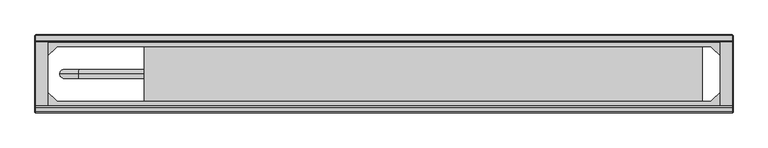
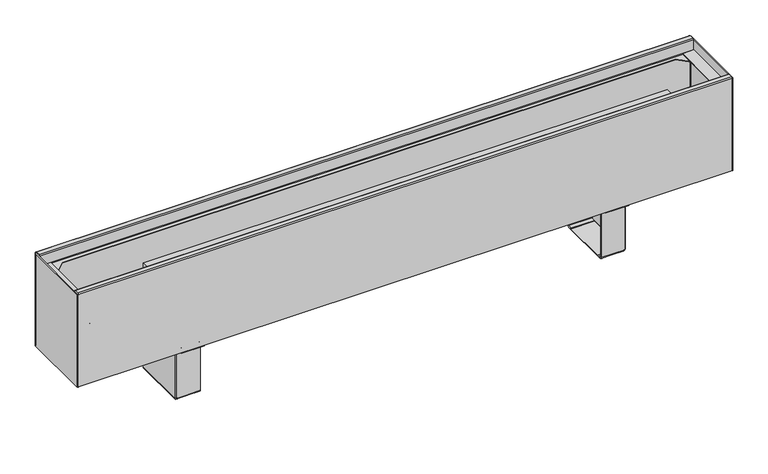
"""IFC4 building model written with IfcOpenShell, lengths in millimetres: proxy geometry, TECHNO_Конвектор напольный_Vita KPZ 135 : KPZ 135-180."""

from ifc_helpers import new_model, si_unit, point, frame, origin, place, context, project, spatial, polyline, circle_curve, ellipse_curve, trimmed, outline, extrude, source, transform, mapped, element, save
from ifc_brep_helpers import plane_surface, cylinder_surface, revolved_surface, advanced_brep


def mechanical_equipment_164569aa(model_context):
    return source(origin(), model_context, "Body", "SolidModel", [
        advanced_brep(
        [(409.7, -116.8, 1.5), (409.7, -114.5, 3.8), (409.7, -114.5, 4.9), (409.7, -116.0, 4.9), (409.7, -116.0, 3.8), (409.7, -116.8, 3.0), (409.7, -124.5, 3.0), (409.7, -124.5, 1.5), (409.7, -117.6, 1.5), (409.7, -114.5, 97.7), (409.7, -113.7, 98.5), (409.7, -101.0, 98.5), (409.7, -101.0, 100.0), (409.7, -113.7, 100.0), (409.7, -116.0, 97.7), (409.7, -116.0, 95.5), (409.7, -114.5, 95.5), (409.7, -220.5, 3.8), (409.7, -218.2, 1.5), (409.7, -217.4, 1.5), (409.7, -210.5, 1.5), (409.7, -210.5, 3.0), (409.7, -218.2, 3.0), (409.7, -219.0, 3.8), (409.7, -219.0, 4.9), (409.7, -220.5, 4.9), (409.7, -219.0, 97.7), (409.7, -221.3, 100.0), (409.7, -234.0, 100.0), (409.7, -234.0, 98.5), (409.7, -221.3, 98.5), (409.7, -220.5, 97.7), (409.7, -220.5, 95.5), (409.7, -219.0, 95.5), (367.0, -220.5, 97.7), (367.0, -221.3, 98.5), (367.0, -234.0, 98.5), (367.0, -234.0, 100.0), (367.0, -221.3, 100.0), (367.0, -219.0, 97.7), (367.0, -219.0, 3.8), (367.0, -218.2, 3.0), (367.0, -210.5, 3.0), (367.0, -210.5, 1.5), (367.0, -124.5, 1.5), (367.0, -124.5, 3.0), (367.0, -116.8, 3.0), (367.0, -116.0, 3.8), (367.0, -116.0, 97.7), (367.0, -113.7, 100.0), (367.0, -101.0, 100.0), (367.0, -101.0, 98.5), (367.0, -113.7, 98.5), (367.0, -114.5, 97.7), (367.0, -114.5, 3.8), (367.0, -116.8, 1.5), (367.0, -117.6, 1.5), (367.0, -117.6, 0.0), (367.0, -217.4, 0.0), (367.0, -217.4, 1.5), (367.0, -218.2, 1.5), (367.0, -220.5, 3.8), (410.5, -116.8, 95.5), (410.5, -218.2, 95.5), (412.0, -218.2, 95.5), (412.0, -116.8, 95.5), (412.0, -116.8, 4.9), (412.0, -117.6, 4.9), (410.5, -117.6, 4.9), (410.5, -116.8, 4.9), (410.5, -218.2, 4.9), (410.5, -217.4, 4.9), (412.0, -217.4, 4.9), (412.0, -218.2, 4.9), (410.5, -117.6, 2.3), (410.5, -217.4, 2.3), (412.0, -217.4, 2.3), (412.0, -117.6, 2.3), (409.7, -117.6, 0.0), (409.7, -217.4, 0.0)],
        [
            (0, 1, circle_curve(frame((409.7, -116.8, 3.8), z_axis=(1.0, 0.0, 0.0), x_axis=(0.0, -1.0, 0.0)), 2.3)),
            (1, 2),
            (2, 3),
            (3, 4),
            (4, 5, circle_curve(frame((409.7, -116.8, 3.8), z_axis=(-1.0, 0.0, 0.0), x_axis=(0.0, -1.0, 0.0)), 0.8)),
            (5, 6),
            (6, 7),
            (7, 8),
            (8, 0),
            (9, 10, circle_curve(frame((409.7, -113.7, 97.7), z_axis=(-1.0, 0.0, 0.0), x_axis=(0.0, -1.0, 0.0)), 0.8)),
            (10, 11),
            (11, 12),
            (12, 13),
            (13, 14, circle_curve(frame((409.7, -113.7, 97.7), z_axis=(1.0, 0.0, 0.0), x_axis=(0.0, -1.0, 0.0)), 2.3)),
            (14, 15),
            (15, 16),
            (16, 9),
            (17, 18, circle_curve(frame((409.7, -218.2, 3.8), z_axis=(1.0, 0.0, 0.0), x_axis=(0.0, -1.0, 0.0)), 2.3)),
            (18, 19),
            (19, 20),
            (20, 21),
            (21, 22),
            (22, 23, circle_curve(frame((409.7, -218.2, 3.8), z_axis=(-1.0, 0.0, 0.0), x_axis=(0.0, -1.0, 0.0)), 0.8)),
            (23, 24),
            (24, 25),
            (25, 17),
            (26, 27, circle_curve(frame((409.7, -221.3, 97.7), z_axis=(1.0, 0.0, 0.0), x_axis=(0.0, -1.0, 0.0)), 2.3)),
            (27, 28),
            (28, 29),
            (29, 30),
            (30, 31, circle_curve(frame((409.7, -221.3, 97.7), z_axis=(-1.0, 0.0, 0.0), x_axis=(0.0, -1.0, 0.0)), 0.8)),
            (31, 32),
            (32, 33),
            (33, 26),
            (34, 35, circle_curve(frame((367.0, -221.3, 97.7), z_axis=(1.0, 0.0, 0.0), x_axis=(0.0, -1.0, 0.0)), 0.8)),
            (35, 36),
            (36, 37),
            (37, 38),
            (38, 39, circle_curve(frame((367.0, -221.3, 97.7), z_axis=(-1.0, 0.0, 0.0), x_axis=(0.0, -1.0, 0.0)), 2.3)),
            (39, 40),
            (40, 41, circle_curve(frame((367.0, -218.2, 3.8), z_axis=(1.0, 0.0, 0.0), x_axis=(0.0, -1.0, 0.0)), 0.8)),
            (41, 42),
            (42, 43),
            (43, 44),
            (44, 45),
            (45, 46),
            (46, 47, circle_curve(frame((367.0, -116.8, 3.8), z_axis=(1.0, 0.0, 0.0), x_axis=(0.0, -1.0, 0.0)), 0.8)),
            (47, 48),
            (48, 49, circle_curve(frame((367.0, -113.7, 97.7), z_axis=(-1.0, 0.0, 0.0), x_axis=(0.0, -1.0, 0.0)), 2.3)),
            (49, 50),
            (50, 51),
            (51, 52),
            (52, 53, circle_curve(frame((367.0, -113.7, 97.7), z_axis=(1.0, 0.0, 0.0), x_axis=(0.0, -1.0, 0.0)), 0.8)),
            (53, 54),
            (54, 55, circle_curve(frame((367.0, -116.8, 3.8), z_axis=(-1.0, 0.0, 0.0), x_axis=(0.0, -1.0, 0.0)), 2.3)),
            (55, 56),
            (56, 57),
            (57, 58),
            (58, 59),
            (59, 60),
            (60, 61, circle_curve(frame((367.0, -218.2, 3.8), z_axis=(-1.0, 0.0, 0.0), x_axis=(0.0, -1.0, 0.0)), 2.3)),
            (61, 34),
            (30, 35),
            (34, 31),
            (29, 36),
            (28, 37),
            (27, 38),
            (26, 39),
            (33, 24),
            (23, 40),
            (22, 41),
            (5, 46),
            (45, 6),
            (4, 47),
            (3, 15),
            (14, 48),
            (13, 49),
            (12, 50),
            (11, 51),
            (10, 52),
            (9, 53),
            (16, 2),
            (1, 54),
            (0, 55),
            (8, 56),
            (17, 61),
            (60, 18),
            (25, 32),
            (21, 42),
            (20, 43),
            (59, 19),
            (44, 7),
            (15, 62, circle_curve(frame((409.7, -116.8, 95.5), z_axis=(0.0, 0.0, -1.0), x_axis=(-1.0, 0.0, 0.0)), 0.8)),
            (62, 63),
            (63, 33, circle_curve(frame((409.7, -218.2, 95.5), z_axis=(0.0, 0.0, -1.0), x_axis=(-1.0, 0.0, 0.0)), 0.8)),
            (32, 64, circle_curve(frame((409.7, -218.2, 95.5), z_axis=(0.0, 0.0, 1.0), x_axis=(-1.0, 0.0, 0.0)), 2.3)),
            (64, 65),
            (65, 16, circle_curve(frame((409.7, -116.8, 95.5), z_axis=(0.0, 0.0, 1.0), x_axis=(-1.0, 0.0, 0.0)), 2.3)),
            (2, 66, circle_curve(frame((409.7, -116.8, 4.9), z_axis=(0.0, 0.0, -1.0), x_axis=(-1.0, 0.0, 0.0)), 2.3)),
            (66, 67),
            (67, 68),
            (68, 69),
            (69, 3, circle_curve(frame((409.7, -116.8, 4.9), z_axis=(0.0, 0.0, 1.0), x_axis=(-1.0, 0.0, 0.0)), 0.8)),
            (24, 70, circle_curve(frame((409.7, -218.2, 4.9), z_axis=(0.0, 0.0, 1.0), x_axis=(-1.0, 0.0, 0.0)), 0.8)),
            (70, 71),
            (71, 72),
            (72, 73),
            (73, 25, circle_curve(frame((409.7, -218.2, 4.9), z_axis=(0.0, 0.0, -1.0), x_axis=(-1.0, 0.0, 0.0)), 2.3)),
            (69, 62),
            (68, 74),
            (74, 75),
            (75, 71),
            (70, 63),
            (64, 73),
            (72, 76),
            (76, 77),
            (77, 67),
            (66, 65),
            (8, 74, circle_curve(frame((409.7, -117.6, 2.3), z_axis=(0.0, -1.0, 0.0), x_axis=(-1.0, 0.0, 0.0)), 0.8)),
            (77, 78, circle_curve(frame((409.7, -117.6, 2.3), z_axis=(0.0, 1.0, 0.0), x_axis=(-1.0, 0.0, 0.0)), 2.3)),
            (78, 57),
            (58, 79),
            (79, 76, circle_curve(frame((409.7, -217.4, 2.3), z_axis=(0.0, -1.0, 0.0), x_axis=(-1.0, 0.0, 0.0)), 2.3)),
            (75, 19, circle_curve(frame((409.7, -217.4, 2.3), z_axis=(0.0, 1.0, 0.0), x_axis=(-1.0, 0.0, 0.0)), 0.8)),
            (20, 7),
            (79, 78),
        ],
        [
            plane_surface(frame((409.7, -222.1, 97.7), z_axis=(1.0, 0.0, 0.0), x_axis=(0.0, 0.0, 1.0))),
            plane_surface(frame((367.0, -222.1, 97.7), z_axis=(-1.0, 0.0, 0.0), x_axis=(0.0, 0.0, -1.0))),
            revolved_surface(polyline([(409.7, -222.10000000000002, 97.7), (367.0, -222.10000000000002, 97.7)]), (409.7, -221.3, 97.7), (1.0, 0.0, 0.0)),
            plane_surface(frame((367.0, -221.3, 98.5), z_axis=(0.0, 0.0, -1.0), x_axis=(1.0, 0.0, 0.0))),
            plane_surface(frame((367.0, -234.0, 98.5), z_axis=(0.0, -1.0, 0.0), x_axis=(1.0, 0.0, 0.0))),
            plane_surface(frame((367.0, -234.0, 100.0), z_axis=(0.0, 0.0, 1.0), x_axis=(1.0, 0.0, 0.0))),
            cylinder_surface(frame((409.7, -221.3, 97.7), z_axis=(-1.0, 0.0, 0.0), x_axis=(0.0, -1.0, 0.0)), 2.3),
            plane_surface(frame((367.0, -219.0, 97.7), z_axis=(0.0, 1.0, 0.0), x_axis=(1.0, 0.0, 0.0))),
            revolved_surface(polyline([(409.7, -219.0, 3.8), (367.0, -219.0, 3.8)]), (409.7, -218.2, 3.8), (1.0, 0.0, 0.0)),
            plane_surface(frame((367.0, -124.5, 3.0), z_axis=(0.0, 0.0, 1.0), x_axis=(1.0, 0.0, 0.0))),
            revolved_surface(polyline([(409.7, -117.6, 3.8), (367.0, -117.6, 3.8)]), (412.0, -116.8, 3.8), (1.0, 0.0, 0.0)),
            plane_surface(frame((367.0, -116.0, 3.8), z_axis=(0.0, -1.0, 0.0), x_axis=(1.0, 0.0, 0.0))),
            cylinder_surface(frame((412.0, -113.7, 97.7), z_axis=(-1.0, 0.0, 0.0), x_axis=(0.0, -1.0, 0.0)), 2.3),
            plane_surface(frame((367.0, -113.7, 100.0), z_axis=(0.0, 0.0, 1.0), x_axis=(1.0, 0.0, 0.0))),
            plane_surface(frame((367.0, -101.0, 100.0), z_axis=(0.0, 1.0, 0.0), x_axis=(1.0, 0.0, 0.0))),
            plane_surface(frame((367.0, -101.0, 98.5), z_axis=(0.0, 0.0, -1.0), x_axis=(1.0, 0.0, 0.0))),
            revolved_surface(polyline([(409.7, -114.5, 97.7), (367.0, -114.5, 97.7)]), (412.0, -113.7, 97.7), (1.0, 0.0, 0.0)),
            plane_surface(frame((367.0, -114.5, 97.7), z_axis=(0.0, 1.0, 0.0), x_axis=(1.0, 0.0, 0.0))),
            cylinder_surface(frame((412.0, -116.8, 3.8), z_axis=(-1.0, 0.0, 0.0), x_axis=(0.0, -1.0, 0.0)), 2.3),
            plane_surface(frame((367.0, -116.8, 1.5), z_axis=(0.0, 0.0, -1.0), x_axis=(1.0, 0.0, 0.0))),
            cylinder_surface(frame((409.7, -218.2, 3.8), z_axis=(-1.0, 0.0, 0.0), x_axis=(0.0, -1.0, 0.0)), 2.3),
            plane_surface(frame((367.0, -220.5, 3.8), z_axis=(0.0, -1.0, 0.0), x_axis=(1.0, 0.0, 0.0))),
            plane_surface(frame((367.0, -218.2, 3.0), z_axis=(0.0, 0.0, 1.0), x_axis=(1.0, 0.0, 0.0))),
            plane_surface(frame((367.0, -210.5, 3.0), z_axis=(0.0, 1.0, 0.0), x_axis=(1.0, 0.0, 0.0))),
            plane_surface(frame((367.0, -210.5, 1.5), z_axis=(0.0, 0.0, -1.0), x_axis=(1.0, 0.0, 0.0))),
            plane_surface(frame((367.0, -124.5, 1.5), z_axis=(0.0, -1.0, 0.0), x_axis=(1.0, 0.0, 0.0))),
            plane_surface(frame((409.7, -116.0, 95.5), z_axis=(0.0, 0.0, 1.0), x_axis=(0.0, -1.0, 0.0))),
            plane_surface(frame((409.7, -116.0, 4.9), z_axis=(0.0, 0.0, -1.0), x_axis=(0.0, 1.0, 0.0))),
            revolved_surface(polyline([(408.9, -116.8, 4.9), (408.9, -116.8, 95.5)]), (409.7, -116.8, 4.9), (0.0, 0.0, -1.0)),
            plane_surface(frame((410.5, -116.8, 95.5), z_axis=(-1.0, 0.0, 0.0), x_axis=(0.0, 0.0, -1.0))),
            plane_surface(frame((412.0, -117.6, 95.5), z_axis=(1.0, 0.0, 0.0), x_axis=(0.0, 0.0, -1.0))),
            cylinder_surface(frame((409.7, -116.8, 4.9), z_axis=(0.0, 0.0, 1.0), x_axis=(-1.0, 0.0, 0.0)), 2.3),
            cylinder_surface(frame((409.7, -218.2, 0.0), z_axis=(0.0, 0.0, 1.0), x_axis=(-1.0, 0.0, 0.0)), 2.3),
            revolved_surface(polyline([(408.9, -218.2, 4.9), (408.9, -218.2, 95.5)]), (409.7, -218.2, 0.0), (0.0, 0.0, -1.0)),
            plane_surface(frame((367.0, -117.6, 1.5), z_axis=(0.0, 1.0, 0.0), x_axis=(0.0, 0.0, 1.0))),
            plane_surface(frame((367.0, -217.4, 1.5), z_axis=(0.0, -1.0, 0.0), x_axis=(0.0, 0.0, -1.0))),
            plane_surface(frame((367.0, -117.6, 1.5), z_axis=(0.0, 0.0, 1.0), x_axis=(0.0, -1.0, 0.0))),
            revolved_surface(polyline([(408.9, -217.4, 2.3), (408.9, -117.6, 2.3)]), (409.7, -217.4, 2.3), (0.0, -1.0, 0.0)),
            cylinder_surface(frame((409.7, -217.4, 2.3), z_axis=(0.0, 1.0, 0.0), x_axis=(-1.0, 0.0, 0.0)), 2.3),
            plane_surface(frame((409.7, -117.6, 0.0), z_axis=(0.0, 0.0, -1.0), x_axis=(0.0, -1.0, 0.0))),
        ],
        [
            (0, [[1, 2, 3, 4, 5, 6, 7, 8, 9]]),
            (0, [[10, 11, 12, 13, 14, 15, 16, 17]]),
            (0, [[18, 19, 20, 21, 22, 23, 24, 25, 26]]),
            (0, [[27, 28, 29, 30, 31, 32, 33, 34]]),
            (1, [[35, 36, 37, 38, 39, 40, 41, 42, 43, 44, 45, 46, 47, 48, 49, 50, 51, 52, 53, 54, 55, 56, 57, 58, 59, 60, 61, 62]]),
            (2, [[-31, 63, -35, 64]]),
            (3, [[-30, 65, -36, -63]]),
            (4, [[-29, 66, -37, -65]]),
            (5, [[-28, 67, -38, -66]]),
            (6, [[-27, 68, -39, -67]]),
            (7, [[-40, -68, -34, 69, -24, 70]]),
            (8, [[-23, 71, -41, -70]]),
            (9, [[-6, 72, -46, 73]]),
            (10, [[-5, 74, -47, -72]]),
            (11, [[-48, -74, -4, 75, -15, 76]]),
            (12, [[-14, 77, -49, -76]]),
            (13, [[-13, 78, -50, -77]]),
            (14, [[-12, 79, -51, -78]]),
            (15, [[-11, 80, -52, -79]]),
            (16, [[-10, 81, -53, -80]]),
            (17, [[-54, -81, -17, 82, -2, 83]]),
            (18, [[-1, 84, -55, -83]]),
            (19, [[-84, -9, 85, -56]]),
            (20, [[-18, 86, -61, 87]]),
            (21, [[-62, -86, -26, 88, -32, -64]]),
            (22, [[-22, 89, -42, -71]]),
            (23, [[-21, 90, -43, -89]]),
            (24, [[-87, -60, 91, -19]]),
            (25, [[-7, -73, -45, 92]]),
            (26, [[93, 94, 95, -33, 96, 97, 98, -16]]),
            (27, [[99, 100, 101, 102, 103, -3]]),
            (27, [[104, 105, 106, 107, 108, -25]]),
            (28, [[-93, -75, -103, 109]]),
            (29, [[-94, -109, -102, 110, 111, 112, -105, 113]]),
            (30, [[-97, 114, -107, 115, 116, 117, -100, 118]]),
            (31, [[-98, -118, -99, -82]]),
            (32, [[-96, -88, -108, -114]]),
            (33, [[-95, -113, -104, -69]]),
            (34, [[-57, -85, 119, -110, -101, -117, 120, 121]]),
            (35, [[122, 123, -115, -106, -112, 124, -91, -59]]),
            (36, [[125, -92, -44, -90]]),
            (37, [[-119, -8, -125, -20, -124, -111]]),
            (38, [[-120, -116, -123, 126]]),
            (39, [[-121, -126, -122, -58]]),
        ],
    ),
        advanced_brep(
        [(-409.7, -218.2, 1.5), (-409.7, -220.5, 3.8), (-409.7, -220.5, 4.9), (-409.7, -219.0, 4.9), (-409.7, -219.0, 3.8), (-409.7, -218.2, 3.0), (-409.7, -210.5, 3.0), (-409.7, -210.5, 1.5), (-409.7, -217.4, 1.5), (-409.7, -220.5, 97.7), (-409.7, -221.3, 98.5), (-409.7, -234.0, 98.5), (-409.7, -234.0, 100.0), (-409.7, -221.3, 100.0), (-409.7, -219.0, 97.7), (-409.7, -219.0, 95.5), (-409.7, -220.5, 95.5), (-409.7, -114.5, 3.8), (-409.7, -116.8, 1.5), (-409.7, -117.6, 1.5), (-409.7, -124.5, 1.5), (-409.7, -124.5, 3.0), (-409.7, -116.8, 3.0), (-409.7, -116.0, 3.8), (-409.7, -116.0, 4.9), (-409.7, -114.5, 4.9), (-409.7, -116.0, 97.7), (-409.7, -113.7, 100.0), (-409.7, -101.0, 100.0), (-409.7, -101.0, 98.5), (-409.7, -113.7, 98.5), (-409.7, -114.5, 97.7), (-409.7, -114.5, 95.5), (-409.7, -116.0, 95.5), (-367.0, -114.5, 97.7), (-367.0, -113.7, 98.5), (-367.0, -101.0, 98.5), (-367.0, -101.0, 100.0), (-367.0, -113.7, 100.0), (-367.0, -116.0, 97.7), (-367.0, -116.0, 3.8), (-367.0, -116.8, 3.0), (-367.0, -124.5, 3.0), (-367.0, -124.5, 1.5), (-367.0, -210.5, 1.5), (-367.0, -210.5, 3.0), (-367.0, -218.2, 3.0), (-367.0, -219.0, 3.8), (-367.0, -219.0, 97.7), (-367.0, -221.3, 100.0), (-367.0, -234.0, 100.0), (-367.0, -234.0, 98.5), (-367.0, -221.3, 98.5), (-367.0, -220.5, 97.7), (-367.0, -220.5, 3.8), (-367.0, -218.2, 1.5), (-367.0, -217.4, 1.5), (-367.0, -217.4, 0.0), (-367.0, -117.6, 0.0), (-367.0, -117.6, 1.5), (-367.0, -116.8, 1.5), (-367.0, -114.5, 3.8), (-410.5, -218.2, 95.5), (-410.5, -116.8, 95.5), (-412.0, -116.8, 95.5), (-412.0, -218.2, 95.5), (-412.0, -218.2, 4.9), (-412.0, -217.4, 4.9), (-410.5, -217.4, 4.9), (-410.5, -218.2, 4.9), (-410.5, -116.8, 4.9), (-410.5, -117.6, 4.9), (-412.0, -117.6, 4.9), (-412.0, -116.8, 4.9), (-410.5, -217.4, 2.3), (-410.5, -117.6, 2.3), (-412.0, -117.6, 2.3), (-412.0, -217.4, 2.3), (-409.7, -217.4, 0.0), (-409.7, -117.6, 0.0)],
        [
            (0, 1, circle_curve(frame((-409.7, -218.2, 3.8), z_axis=(-1.0, 0.0, 0.0), x_axis=(0.0, 1.0, 0.0)), 2.3)),
            (1, 2),
            (2, 3),
            (3, 4),
            (4, 5, circle_curve(frame((-409.7, -218.2, 3.8), z_axis=(1.0, 0.0, 0.0), x_axis=(0.0, 1.0, 0.0)), 0.8)),
            (5, 6),
            (6, 7),
            (7, 8),
            (8, 0),
            (9, 10, circle_curve(frame((-409.7, -221.3, 97.7), z_axis=(1.0, 0.0, 0.0), x_axis=(0.0, 1.0, 0.0)), 0.8)),
            (10, 11),
            (11, 12),
            (12, 13),
            (13, 14, circle_curve(frame((-409.7, -221.3, 97.7), z_axis=(-1.0, 0.0, 0.0), x_axis=(0.0, 1.0, 0.0)), 2.3)),
            (14, 15),
            (15, 16),
            (16, 9),
            (17, 18, circle_curve(frame((-409.7, -116.8, 3.8), z_axis=(-1.0, 0.0, 0.0), x_axis=(0.0, 1.0, 0.0)), 2.3)),
            (18, 19),
            (19, 20),
            (20, 21),
            (21, 22),
            (22, 23, circle_curve(frame((-409.7, -116.8, 3.8), z_axis=(1.0, 0.0, 0.0), x_axis=(0.0, 1.0, 0.0)), 0.8)),
            (23, 24),
            (24, 25),
            (25, 17),
            (26, 27, circle_curve(frame((-409.7, -113.7, 97.7), z_axis=(-1.0, 0.0, 0.0), x_axis=(0.0, 1.0, 0.0)), 2.3)),
            (27, 28),
            (28, 29),
            (29, 30),
            (30, 31, circle_curve(frame((-409.7, -113.7, 97.7), z_axis=(1.0, 0.0, 0.0), x_axis=(0.0, 1.0, 0.0)), 0.8)),
            (31, 32),
            (32, 33),
            (33, 26),
            (34, 35, circle_curve(frame((-367.0, -113.7, 97.7), z_axis=(-1.0, 0.0, 0.0), x_axis=(0.0, 1.0, 0.0)), 0.8)),
            (35, 36),
            (36, 37),
            (37, 38),
            (38, 39, circle_curve(frame((-367.0, -113.7, 97.7), z_axis=(1.0, 0.0, 0.0), x_axis=(0.0, 1.0, 0.0)), 2.3)),
            (39, 40),
            (40, 41, circle_curve(frame((-367.0, -116.8, 3.8), z_axis=(-1.0, 0.0, 0.0), x_axis=(0.0, 1.0, 0.0)), 0.8)),
            (41, 42),
            (42, 43),
            (43, 44),
            (44, 45),
            (45, 46),
            (46, 47, circle_curve(frame((-367.0, -218.2, 3.8), z_axis=(-1.0, 0.0, 0.0), x_axis=(0.0, 1.0, 0.0)), 0.8)),
            (47, 48),
            (48, 49, circle_curve(frame((-367.0, -221.3, 97.7), z_axis=(1.0, 0.0, 0.0), x_axis=(0.0, 1.0, 0.0)), 2.3)),
            (49, 50),
            (50, 51),
            (51, 52),
            (52, 53, circle_curve(frame((-367.0, -221.3, 97.7), z_axis=(-1.0, 0.0, 0.0), x_axis=(0.0, 1.0, 0.0)), 0.8)),
            (53, 54),
            (54, 55, circle_curve(frame((-367.0, -218.2, 3.8), z_axis=(1.0, 0.0, 0.0), x_axis=(0.0, 1.0, 0.0)), 2.3)),
            (55, 56),
            (56, 57),
            (57, 58),
            (58, 59),
            (59, 60),
            (60, 61, circle_curve(frame((-367.0, -116.8, 3.8), z_axis=(1.0, 0.0, 0.0), x_axis=(0.0, 1.0, 0.0)), 2.3)),
            (61, 34),
            (30, 35),
            (34, 31),
            (29, 36),
            (28, 37),
            (27, 38),
            (26, 39),
            (33, 24),
            (23, 40),
            (22, 41),
            (5, 46),
            (45, 6),
            (4, 47),
            (3, 15),
            (14, 48),
            (13, 49),
            (12, 50),
            (11, 51),
            (10, 52),
            (9, 53),
            (16, 2),
            (1, 54),
            (0, 55),
            (8, 56),
            (17, 61),
            (60, 18),
            (25, 32),
            (21, 42),
            (20, 43),
            (59, 19),
            (44, 7),
            (15, 62, circle_curve(frame((-409.7, -218.2, 95.5), z_axis=(0.0, 0.0, -1.0), x_axis=(1.0, 0.0, 0.0)), 0.8)),
            (62, 63),
            (63, 33, circle_curve(frame((-409.7, -116.8, 95.5), z_axis=(0.0, 0.0, -1.0), x_axis=(1.0, 0.0, 0.0)), 0.8)),
            (32, 64, circle_curve(frame((-409.7, -116.8, 95.5), z_axis=(0.0, 0.0, 1.0), x_axis=(1.0, 0.0, 0.0)), 2.3)),
            (64, 65),
            (65, 16, circle_curve(frame((-409.7, -218.2, 95.5), z_axis=(0.0, 0.0, 1.0), x_axis=(1.0, 0.0, 0.0)), 2.3)),
            (2, 66, circle_curve(frame((-409.7, -218.2, 4.9), z_axis=(0.0, 0.0, -1.0), x_axis=(1.0, 0.0, 0.0)), 2.3)),
            (66, 67),
            (67, 68),
            (68, 69),
            (69, 3, circle_curve(frame((-409.7, -218.2, 4.9), z_axis=(0.0, 0.0, 1.0), x_axis=(1.0, 0.0, 0.0)), 0.8)),
            (24, 70, circle_curve(frame((-409.7, -116.8, 4.9), z_axis=(0.0, 0.0, 1.0), x_axis=(1.0, 0.0, 0.0)), 0.8)),
            (70, 71),
            (71, 72),
            (72, 73),
            (73, 25, circle_curve(frame((-409.7, -116.8, 4.9), z_axis=(0.0, 0.0, -1.0), x_axis=(1.0, 0.0, 0.0)), 2.3)),
            (69, 62),
            (68, 74),
            (74, 75),
            (75, 71),
            (70, 63),
            (64, 73),
            (72, 76),
            (76, 77),
            (77, 67),
            (66, 65),
            (8, 74, circle_curve(frame((-409.7, -217.4, 2.3), z_axis=(0.0, 1.0, 0.0), x_axis=(1.0, 0.0, 0.0)), 0.8)),
            (77, 78, circle_curve(frame((-409.7, -217.4, 2.3), z_axis=(0.0, -1.0, 0.0), x_axis=(1.0, 0.0, 0.0)), 2.3)),
            (78, 57),
            (58, 79),
            (79, 76, circle_curve(frame((-409.7, -117.6, 2.3), z_axis=(0.0, 1.0, 0.0), x_axis=(1.0, 0.0, 0.0)), 2.3)),
            (75, 19, circle_curve(frame((-409.7, -117.6, 2.3), z_axis=(0.0, -1.0, 0.0), x_axis=(1.0, 0.0, 0.0)), 0.8)),
            (20, 7),
            (79, 78),
        ],
        [
            plane_surface(frame((-409.7, -112.9, 97.7), z_axis=(-1.0, 0.0, 0.0), x_axis=(0.0, 0.0, 1.0))),
            plane_surface(frame((-367.0, -112.9, 97.7), z_axis=(1.0, 0.0, 0.0), x_axis=(0.0, 0.0, -1.0))),
            revolved_surface(polyline([(-409.7, -112.9, 97.7), (-367.0, -112.9, 97.7)]), (-409.7, -113.7, 97.7), (-1.0, 0.0, 0.0)),
            plane_surface(frame((-367.0, -113.7, 98.5), z_axis=(0.0, 0.0, -1.0), x_axis=(-1.0, 0.0, 0.0))),
            plane_surface(frame((-367.0, -101.0, 98.5), z_axis=(0.0, 1.0, 0.0), x_axis=(-1.0, 0.0, 0.0))),
            plane_surface(frame((-367.0, -101.0, 100.0), z_axis=(0.0, 0.0, 1.0), x_axis=(-1.0, 0.0, 0.0))),
            cylinder_surface(frame((-409.7, -113.7, 97.7), z_axis=(1.0, 0.0, 0.0), x_axis=(0.0, 1.0, 0.0)), 2.3),
            plane_surface(frame((-367.0, -116.0, 97.7), z_axis=(0.0, -1.0, 0.0), x_axis=(-1.0, 0.0, 0.0))),
            revolved_surface(polyline([(-409.7, -116.0, 3.8), (-367.0, -116.0, 3.8)]), (-409.7, -116.8, 3.8), (-1.0, 0.0, 0.0)),
            plane_surface(frame((-367.0, -210.5, 3.0), z_axis=(0.0, 0.0, 1.0), x_axis=(-1.0, 0.0, 0.0))),
            revolved_surface(polyline([(-409.7, -217.39999999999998, 3.8), (-367.0, -217.39999999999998, 3.8)]), (-412.0, -218.2, 3.8), (-1.0, 0.0, 0.0)),
            plane_surface(frame((-367.0, -219.0, 3.8), z_axis=(0.0, 1.0, 0.0), x_axis=(-1.0, 0.0, 0.0))),
            cylinder_surface(frame((-412.0, -221.3, 97.7), z_axis=(1.0, 0.0, 0.0), x_axis=(0.0, 1.0, 0.0)), 2.3),
            plane_surface(frame((-367.0, -221.3, 100.0), z_axis=(0.0, 0.0, 1.0), x_axis=(-1.0, 0.0, 0.0))),
            plane_surface(frame((-367.0, -234.0, 100.0), z_axis=(0.0, -1.0, 0.0), x_axis=(-1.0, 0.0, 0.0))),
            plane_surface(frame((-367.0, -234.0, 98.5), z_axis=(0.0, 0.0, -1.0), x_axis=(-1.0, 0.0, 0.0))),
            revolved_surface(polyline([(-409.7, -220.5, 97.7), (-367.0, -220.5, 97.7)]), (-412.0, -221.3, 97.7), (-1.0, 0.0, 0.0)),
            plane_surface(frame((-367.0, -220.5, 97.7), z_axis=(0.0, -1.0, 0.0), x_axis=(-1.0, 0.0, 0.0))),
            cylinder_surface(frame((-412.0, -218.2, 3.8), z_axis=(1.0, 0.0, 0.0), x_axis=(0.0, 1.0, 0.0)), 2.3),
            plane_surface(frame((-367.0, -218.2, 1.5), z_axis=(0.0, 0.0, -1.0), x_axis=(-1.0, 0.0, 0.0))),
            cylinder_surface(frame((-409.7, -116.8, 3.8), z_axis=(1.0, 0.0, 0.0), x_axis=(0.0, 1.0, 0.0)), 2.3),
            plane_surface(frame((-367.0, -114.5, 3.8), z_axis=(0.0, 1.0, 0.0), x_axis=(-1.0, 0.0, 0.0))),
            plane_surface(frame((-367.0, -116.8, 3.0), z_axis=(0.0, 0.0, 1.0), x_axis=(-1.0, 0.0, 0.0))),
            plane_surface(frame((-367.0, -124.5, 3.0), z_axis=(0.0, -1.0, 0.0), x_axis=(-1.0, 0.0, 0.0))),
            plane_surface(frame((-367.0, -124.5, 1.5), z_axis=(0.0, 0.0, -1.0), x_axis=(-1.0, 0.0, 0.0))),
            plane_surface(frame((-367.0, -210.5, 1.5), z_axis=(0.0, 1.0, 0.0), x_axis=(-1.0, 0.0, 0.0))),
            plane_surface(frame((-409.7, -219.0, 95.5), z_axis=(0.0, 0.0, 1.0), x_axis=(0.0, 1.0, 0.0))),
            plane_surface(frame((-409.7, -219.0, 4.9), z_axis=(0.0, 0.0, -1.0), x_axis=(0.0, -1.0, 0.0))),
            revolved_surface(polyline([(-408.9, -218.2, 4.9), (-408.9, -218.2, 95.5)]), (-409.7, -218.2, 4.9), (0.0, 0.0, -1.0)),
            plane_surface(frame((-410.5, -218.2, 95.5), z_axis=(1.0, 0.0, 0.0), x_axis=(0.0, 0.0, -1.0))),
            plane_surface(frame((-412.0, -217.4, 95.5), z_axis=(-1.0, 0.0, 0.0), x_axis=(0.0, 0.0, -1.0))),
            cylinder_surface(frame((-409.7, -218.2, 4.9), z_axis=(0.0, 0.0, 1.0), x_axis=(1.0, 0.0, 0.0)), 2.3),
            cylinder_surface(frame((-409.7, -116.8, 0.0), z_axis=(0.0, 0.0, 1.0), x_axis=(1.0, 0.0, 0.0)), 2.3),
            revolved_surface(polyline([(-408.9, -116.8, 4.9), (-408.9, -116.8, 95.5)]), (-409.7, -116.8, 0.0), (0.0, 0.0, -1.0)),
            plane_surface(frame((-367.0, -217.4, 1.5), z_axis=(0.0, -1.0, 0.0), x_axis=(0.0, 0.0, 1.0))),
            plane_surface(frame((-367.0, -117.6, 1.5), z_axis=(0.0, 1.0, 0.0), x_axis=(0.0, 0.0, -1.0))),
            plane_surface(frame((-367.0, -217.4, 1.5), z_axis=(0.0, 0.0, 1.0), x_axis=(0.0, 1.0, 0.0))),
            revolved_surface(polyline([(-408.9, -117.6, 2.3), (-408.9, -217.4, 2.3)]), (-409.7, -117.6, 2.3), (0.0, 1.0, 0.0)),
            cylinder_surface(frame((-409.7, -117.6, 2.3), z_axis=(0.0, -1.0, 0.0), x_axis=(1.0, 0.0, 0.0)), 2.3),
            plane_surface(frame((-409.7, -217.4, 0.0), z_axis=(0.0, 0.0, -1.0), x_axis=(0.0, 1.0, 0.0))),
        ],
        [
            (0, [[1, 2, 3, 4, 5, 6, 7, 8, 9]]),
            (0, [[10, 11, 12, 13, 14, 15, 16, 17]]),
            (0, [[18, 19, 20, 21, 22, 23, 24, 25, 26]]),
            (0, [[27, 28, 29, 30, 31, 32, 33, 34]]),
            (1, [[35, 36, 37, 38, 39, 40, 41, 42, 43, 44, 45, 46, 47, 48, 49, 50, 51, 52, 53, 54, 55, 56, 57, 58, 59, 60, 61, 62]]),
            (2, [[-31, 63, -35, 64]]),
            (3, [[-30, 65, -36, -63]]),
            (4, [[-29, 66, -37, -65]]),
            (5, [[-28, 67, -38, -66]]),
            (6, [[-27, 68, -39, -67]]),
            (7, [[-40, -68, -34, 69, -24, 70]]),
            (8, [[-23, 71, -41, -70]]),
            (9, [[-6, 72, -46, 73]]),
            (10, [[-5, 74, -47, -72]]),
            (11, [[-48, -74, -4, 75, -15, 76]]),
            (12, [[-14, 77, -49, -76]]),
            (13, [[-13, 78, -50, -77]]),
            (14, [[-12, 79, -51, -78]]),
            (15, [[-11, 80, -52, -79]]),
            (16, [[-10, 81, -53, -80]]),
            (17, [[-54, -81, -17, 82, -2, 83]]),
            (18, [[-1, 84, -55, -83]]),
            (19, [[-84, -9, 85, -56]]),
            (20, [[-18, 86, -61, 87]]),
            (21, [[-62, -86, -26, 88, -32, -64]]),
            (22, [[-22, 89, -42, -71]]),
            (23, [[-21, 90, -43, -89]]),
            (24, [[-87, -60, 91, -19]]),
            (25, [[-7, -73, -45, 92]]),
            (26, [[93, 94, 95, -33, 96, 97, 98, -16]]),
            (27, [[99, 100, 101, 102, 103, -3]]),
            (27, [[104, 105, 106, 107, 108, -25]]),
            (28, [[-93, -75, -103, 109]]),
            (29, [[-94, -109, -102, 110, 111, 112, -105, 113]]),
            (30, [[-97, 114, -107, 115, 116, 117, -100, 118]]),
            (31, [[-98, -118, -99, -82]]),
            (32, [[-96, -88, -108, -114]]),
            (33, [[-95, -113, -104, -69]]),
            (34, [[-57, -85, 119, -110, -101, -117, 120, 121]]),
            (35, [[122, 123, -115, -106, -112, 124, -91, -59]]),
            (36, [[125, -92, -44, -90]]),
            (37, [[-119, -8, -125, -20, -124, -111]]),
            (38, [[-120, -116, -123, 126]]),
            (39, [[-121, -126, -122, -58]]),
        ],
    ),
        advanced_brep(
        [(-412.0, -167.5, 186.5), (-412.0, -167.5, 171.5), (-525.0, -167.5, 186.5), (-525.0, -167.5, 171.5), (-542.5, -167.5, 154.0), (-557.5, -167.5, 154.0), (-557.5, -167.5, 100.0), (-542.5, -167.5, 100.0)],
        [
            (0, 1, circle_curve(frame((-412.0, -167.5, 179.0), z_axis=(1.0, 0.0, 0.0), x_axis=(0.0, 0.0, -1.0)), 7.5)),
            (1, 0, circle_curve(frame((-412.0, -167.5, 179.0), z_axis=(1.0, 0.0, 0.0), x_axis=(0.0, 0.0, -1.0)), 7.5)),
            (0, 2),
            (2, 3, circle_curve(frame((-525.0, -167.5, 179.0), z_axis=(1.0, 0.0, 0.0), x_axis=(0.0, 0.0, -1.0)), 7.5)),
            (3, 1),
            (3, 2, circle_curve(frame((-525.0, -167.5, 179.0), z_axis=(1.0, 0.0, 0.0), x_axis=(0.0, 0.0, -1.0)), 7.5)),
            (4, 3, circle_curve(frame((-525.0, -167.5, 154.0), z_axis=(0.0, 1.0, 0.0), x_axis=(0.0, 0.0, 1.0)), 17.5)),
            (2, 5, circle_curve(frame((-525.0, -167.5, 154.0), z_axis=(0.0, -1.0, 0.0), x_axis=(0.0, 0.0, 1.0)), 32.5)),
            (5, 4, circle_curve(frame((-550.0, -167.5, 154.0), z_axis=(0.0, 0.0, 1.0), x_axis=(1.0, 0.0, 0.0)), 7.5)),
            (4, 5, circle_curve(frame((-550.0, -167.5, 154.0), z_axis=(0.0, 0.0, 1.0), x_axis=(1.0, 0.0, 0.0)), 7.5)),
            (6, 7, circle_curve(frame((-550.0, -167.5, 100.0), z_axis=(0.0, 0.0, -1.0), x_axis=(1.0, 0.0, 0.0)), 7.5)),
            (7, 6, circle_curve(frame((-550.0, -167.5, 100.0), z_axis=(0.0, 0.0, -1.0), x_axis=(1.0, 0.0, 0.0)), 7.5)),
            (5, 6),
            (7, 4),
        ],
        [
            plane_surface(frame((-412.0, -167.5, 179.0), z_axis=(1.0, 0.0, 0.0), x_axis=(0.0, -1.0, 0.0))),
            cylinder_surface(frame((-412.0, -167.5, 179.0), z_axis=(1.0, 0.0, 0.0), x_axis=(0.0, 0.0, -1.0)), 7.5),
            revolved_surface(trimmed(ellipse_curve(frame((-525.0, -167.5, 179.0), z_axis=(1.0, 0.0, 0.0), x_axis=(0.0, 0.0, -1.0)), 7.5, 7.5), [point((-525.0, -167.5, 186.5))], [point((-525.0, -167.5, 171.5))], True, "CARTESIAN"), (-525.0, -167.5, 154.0), (0.0, -1.0, 0.0)),
            revolved_surface(trimmed(ellipse_curve(frame((-525.0, -167.5, 179.0), z_axis=(1.0, 0.0, 0.0), x_axis=(0.0, 0.0, -1.0)), 7.5, 7.5), [point((-525.0, -167.5, 171.5))], [point((-525.0, -167.5, 186.5))], True, "CARTESIAN"), (-525.0, -167.5, 154.0), (0.0, -1.0, 0.0)),
            plane_surface(frame((-550.0, -167.5, 100.0), z_axis=(0.0, 0.0, -1.0), x_axis=(0.0, -1.0, 0.0))),
            cylinder_surface(frame((-550.0, -167.5, 154.0), z_axis=(0.0, 0.0, 1.0), x_axis=(1.0, 0.0, 0.0)), 7.5),
        ],
        [
            (0, [[1, 2]]),
            (1, [[-1, 3, 4, 5]]),
            (1, [[-2, -5, 6, -3]]),
            (2, [[7, -4, 8, 9]]),
            (3, [[-8, -6, -7, 10]]),
            (4, [[11, 12]]),
            (5, [[-9, 13, -12, 14]]),
            (5, [[-10, -14, -11, -13]]),
        ],
    ),
        advanced_brep(
        [(-412.0, -167.5, 136.5), (-412.0, -167.5, 121.5), (-507.5, -167.5, 136.5), (-492.5, -167.5, 121.5), (-507.5, -167.5, 100.0), (-492.5, -167.5, 100.0)],
        [
            (0, 1, circle_curve(frame((-412.0, -167.5, 129.0), z_axis=(1.0, 0.0, 0.0), x_axis=(0.0, 0.0, -1.0)), 7.5)),
            (1, 0, circle_curve(frame((-412.0, -167.5, 129.0), z_axis=(1.0, 0.0, 0.0), x_axis=(0.0, 0.0, -1.0)), 7.5)),
            (0, 2),
            (2, 3, ellipse_curve(frame((-500.0, -167.5, 129.0), z_axis=(0.7071067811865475, 0.0, 0.7071067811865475), x_axis=(0.7071067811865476, 0.0, -0.7071067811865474)), 10.6066017, 7.5)),
            (3, 1),
            (3, 2, ellipse_curve(frame((-500.0, -167.5, 129.0), z_axis=(0.7071067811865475, 0.0, 0.7071067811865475), x_axis=(0.7071067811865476, 0.0, -0.7071067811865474)), 10.6066017, 7.5)),
            (4, 5, circle_curve(frame((-500.0, -167.5, 100.0), z_axis=(0.0, 0.0, -1.0), x_axis=(1.0, 0.0, 0.0)), 7.5)),
            (5, 4, circle_curve(frame((-500.0, -167.5, 100.0), z_axis=(0.0, 0.0, -1.0), x_axis=(1.0, 0.0, 0.0)), 7.5)),
            (2, 4),
            (5, 3),
        ],
        [
            plane_surface(frame((-412.0, -167.5, 129.0), z_axis=(1.0, 0.0, 0.0), x_axis=(0.0, -1.0, 0.0))),
            cylinder_surface(frame((-412.0, -167.5, 129.0), z_axis=(1.0, 0.0, 0.0), x_axis=(0.0, 0.0, -1.0)), 7.5),
            plane_surface(frame((-500.0, -167.5, 100.0), z_axis=(0.0, 0.0, -1.0), x_axis=(0.0, -1.0, 0.0))),
            cylinder_surface(frame((-500.0, -167.5, 129.0), z_axis=(0.0, 0.0, 1.0), x_axis=(1.0, 0.0, 0.0)), 7.5),
        ],
        [
            (0, [[1, 2]]),
            (1, [[-1, 3, 4, 5]]),
            (1, [[-2, -5, 6, -3]]),
            (2, [[7, 8]]),
            (3, [[-4, 9, -8, 10]]),
            (3, [[-6, -10, -7, -9]]),
        ],
    ),
        extrude(outline(polyline([(547.0, -117.5), (547.0, -217.5), (-412.0, -217.5), (-412.0, -117.5), (547.0, -117.5)])), frame((0.0, 0.0, 103.87), z_axis=(0.0, 0.0, 1.0), x_axis=(1.0, 0.0, 0.0)), (0.0, 0.0, 1.0), 100.0),
        extrude(outline(polyline([(-585.5004, -102.0), (-585.5004, -233.0), (-599.0, -233.0), (-599.0, -102.0), (-585.5004, -102.0)])), frame((0.0, 0.0, 101.83), z_axis=(0.0, 0.0, 1.0), x_axis=(1.0, 0.0, 0.0)), (0.0, 0.0, 1.0), 1.0002),
        extrude(outline(polyline([(585.5004, -102.0), (599.0, -102.0), (599.0, -233.0), (585.5004, -233.0), (585.5004, -102.0)])), frame((0.0, 0.0, 101.83), z_axis=(0.0, 0.0, 1.0), x_axis=(1.0, 0.0, 0.0)), (0.0, 0.0, 1.0), 1.0002),
        extrude(outline(polyline([(-599.0, -222.2), (-599.0, -112.8), (-578.0, -112.8), (-578.0, -222.2), (-599.0, -222.2)])), frame((0.0, 0.0, 258.83), z_axis=(0.0, 0.0, 1.0), x_axis=(1.0, 0.0, 0.0)), (0.0, 0.0, 1.0), 1.0002),
        extrude(outline(polyline([(599.0, -222.2), (578.0, -222.2), (578.0, -112.8), (599.0, -112.8), (599.0, -222.2)])), frame((0.0, 0.0, 258.83), z_axis=(0.0, 0.0, 1.0), x_axis=(1.0, 0.0, 0.0)), (0.0, 0.0, 1.0), 1.0002),
        advanced_brep(
        [(-598.2, -101.8, 280.83), (-598.2, -100.0, 279.03), (-598.2, -101.0, 279.03), (-598.2, -101.0, 257.83), (-598.2, -138.5, 257.83), (-598.2, -138.5, 258.83), (-598.2, -112.8, 258.83), (-598.2, -112.0, 259.63), (-598.2, -112.0, 279.03), (-598.2, -110.2, 280.83), (-598.2, -233.2, 280.83), (-598.2, -224.8, 280.83), (-598.2, -223.0, 279.03), (-598.2, -223.0, 259.63), (-598.2, -222.2, 258.83), (-598.2, -196.5, 258.83), (-598.2, -196.5, 257.83), (-598.2, -234.0, 257.83), (-598.2, -234.0, 279.03), (-598.2, -235.0, 279.03), (598.2, -101.8, 280.83), (598.2, -110.2, 280.83), (598.2, -112.0, 279.03), (598.2, -112.0, 259.63), (598.2, -112.8, 258.83), (598.2, -138.5, 258.83), (598.2, -138.5, 257.83), (598.2, -101.0, 257.83), (598.2, -101.0, 279.03), (598.2, -100.0, 279.03), (598.2, -233.2, 280.83), (598.2, -235.0, 279.03), (598.2, -234.0, 279.03), (598.2, -234.0, 257.83), (598.2, -196.5, 257.83), (598.2, -196.5, 258.83), (598.2, -222.2, 258.83), (598.2, -223.0, 259.63), (598.2, -223.0, 279.03), (598.2, -224.8, 280.83), (-580.3, -138.5, 258.83), (-561.8, -120.0, 258.83), (561.8, -120.0, 258.83), (580.3, -138.5, 258.83), (-580.3, -138.5, 257.83), (580.3, -138.5, 257.83), (561.8, -120.0, 257.83), (-561.8, -120.0, 257.83), (598.2, -100.0, 100.0), (-598.2, -100.0, 100.0), (-598.2, -235.0, 100.0), (598.2, -235.0, 100.0), (580.3, -196.5, 257.83), (-580.3, -196.5, 257.83), (-561.8, -215.0, 257.83), (561.8, -215.0, 257.83), (-580.3, -196.5, 258.83), (580.3, -196.5, 258.83), (561.8, -215.0, 258.83), (-561.8, -215.0, 258.83), (-600.0, -101.8, 279.03), (-600.0, -233.2, 279.03), (-599.0, -233.2, 279.03), (-599.0, -101.8, 279.03), (600.0, -233.2, 279.03), (600.0, -101.8, 279.03), (599.0, -101.8, 279.03), (599.0, -233.2, 279.03), (600.0, -101.8, 100.0), (600.0, -233.2, 100.0), (-600.0, -233.2, 100.0), (-600.0, -101.8, 100.0), (599.0, -101.8, 100.0), (598.2, -101.0, 100.0), (598.2, -113.0, 100.0), (-598.2, -113.0, 100.0), (-598.2, -101.0, 100.0), (-599.0, -101.8, 100.0), (-599.0, -233.2, 100.0), (-598.2, -234.0, 100.0), (-598.2, -222.0, 100.0), (598.2, -222.0, 100.0), (598.2, -234.0, 100.0), (599.0, -233.2, 100.0), (-598.2, -101.0, 100.83), (598.2, -101.0, 100.83), (598.2, -234.0, 100.83), (-598.2, -234.0, 100.83), (-598.2, -113.0, 100.83), (598.2, -113.0, 100.83), (598.2, -222.0, 100.83), (-598.2, -222.0, 100.83)],
        [
            (0, 1, circle_curve(frame((-598.2, -101.8, 279.03), z_axis=(-1.0, 0.0, 0.0), x_axis=(0.0, 1.0, 0.0)), 1.8)),
            (1, 2),
            (2, 3),
            (3, 4),
            (4, 5),
            (5, 6),
            (6, 7, circle_curve(frame((-598.2, -112.8, 259.63), z_axis=(1.0, 0.0, 0.0), x_axis=(0.0, 1.0, 0.0)), 0.8)),
            (7, 8),
            (8, 9, circle_curve(frame((-598.2, -110.2, 279.03), z_axis=(-1.0, 0.0, 0.0), x_axis=(0.0, 1.0, 0.0)), 1.8)),
            (9, 0),
            (10, 11),
            (11, 12, circle_curve(frame((-598.2, -224.8, 279.03), z_axis=(-1.0, 0.0, 0.0), x_axis=(0.0, 1.0, 0.0)), 1.8)),
            (12, 13),
            (13, 14, circle_curve(frame((-598.2, -222.2, 259.63), z_axis=(1.0, 0.0, 0.0), x_axis=(0.0, 1.0, 0.0)), 0.8)),
            (14, 15),
            (15, 16),
            (16, 17),
            (17, 18),
            (18, 19),
            (19, 10, circle_curve(frame((-598.2, -233.2, 279.03), z_axis=(-1.0, 0.0, 0.0), x_axis=(0.0, 1.0, 0.0)), 1.8)),
            (20, 21),
            (21, 22, circle_curve(frame((598.2, -110.2, 279.03), z_axis=(1.0, 0.0, 0.0), x_axis=(0.0, 1.0, 0.0)), 1.8)),
            (22, 23),
            (23, 24, circle_curve(frame((598.2, -112.8, 259.63), z_axis=(-1.0, 0.0, 0.0), x_axis=(0.0, 1.0, 0.0)), 0.8)),
            (24, 25),
            (25, 26),
            (26, 27),
            (27, 28),
            (28, 29),
            (29, 20, circle_curve(frame((598.2, -101.8, 279.03), z_axis=(1.0, 0.0, 0.0), x_axis=(0.0, 1.0, 0.0)), 1.8)),
            (30, 31, circle_curve(frame((598.2, -233.2, 279.03), z_axis=(1.0, 0.0, 0.0), x_axis=(0.0, 1.0, 0.0)), 1.8)),
            (31, 32),
            (32, 33),
            (33, 34),
            (34, 35),
            (35, 36),
            (36, 37, circle_curve(frame((598.2, -222.2, 259.63), z_axis=(-1.0, 0.0, 0.0), x_axis=(0.0, 1.0, 0.0)), 0.8)),
            (37, 38),
            (38, 39, circle_curve(frame((598.2, -224.8, 279.03), z_axis=(1.0, 0.0, 0.0), x_axis=(0.0, 1.0, 0.0)), 1.8)),
            (39, 30),
            (9, 21),
            (20, 0),
            (8, 22),
            (7, 23),
            (6, 24),
            (5, 40),
            (40, 41),
            (41, 42),
            (42, 43),
            (43, 25),
            (4, 44),
            (44, 40),
            (43, 45),
            (45, 26),
            (45, 46),
            (46, 47),
            (47, 44),
            (3, 27),
            (1, 29),
            (29, 48),
            (48, 49),
            (49, 1),
            (19, 31),
            (30, 10),
            (19, 50),
            (50, 51),
            (51, 31),
            (52, 34),
            (33, 17),
            (16, 53),
            (53, 54),
            (54, 55),
            (55, 52),
            (15, 56),
            (56, 53),
            (52, 57),
            (57, 35),
            (14, 36),
            (57, 58),
            (58, 59),
            (59, 56),
            (13, 37),
            (12, 38),
            (11, 39),
            (42, 46),
            (41, 47),
            (58, 55),
            (54, 59),
            (1, 60, circle_curve(frame((-598.2, -101.8, 279.03), z_axis=(0.0, 0.0, 1.0), x_axis=(1.0, 0.0, 0.0)), 1.8)),
            (60, 61),
            (61, 19, circle_curve(frame((-598.2, -233.2, 279.03), z_axis=(0.0, 0.0, 1.0), x_axis=(1.0, 0.0, 0.0)), 1.8)),
            (18, 62, circle_curve(frame((-598.2, -233.2, 279.03), z_axis=(0.0, 0.0, -1.0), x_axis=(1.0, 0.0, 0.0)), 0.8)),
            (62, 63),
            (63, 2, circle_curve(frame((-598.2, -101.8, 279.03), z_axis=(0.0, 0.0, -1.0), x_axis=(1.0, 0.0, 0.0)), 0.8)),
            (31, 64, circle_curve(frame((598.2, -233.2, 279.03), z_axis=(0.0, 0.0, 1.0), x_axis=(1.0, 0.0, 0.0)), 1.8)),
            (64, 65),
            (65, 29, circle_curve(frame((598.2, -101.8, 279.03), z_axis=(0.0, 0.0, 1.0), x_axis=(1.0, 0.0, 0.0)), 1.8)),
            (28, 66, circle_curve(frame((598.2, -101.8, 279.03), z_axis=(0.0, 0.0, -1.0), x_axis=(1.0, 0.0, 0.0)), 0.8)),
            (66, 67),
            (67, 32, circle_curve(frame((598.2, -233.2, 279.03), z_axis=(0.0, 0.0, -1.0), x_axis=(1.0, 0.0, 0.0)), 0.8)),
            (48, 68, circle_curve(frame((598.2, -101.8, 100.0), z_axis=(0.0, 0.0, -1.0), x_axis=(1.0, 0.0, 0.0)), 1.8)),
            (68, 69),
            (69, 51, circle_curve(frame((598.2, -233.2, 100.0), z_axis=(0.0, 0.0, -1.0), x_axis=(1.0, 0.0, 0.0)), 1.8)),
            (50, 70, circle_curve(frame((-598.2, -233.2, 100.0), z_axis=(0.0, 0.0, -1.0), x_axis=(1.0, 0.0, 0.0)), 1.8)),
            (70, 71),
            (71, 49, circle_curve(frame((-598.2, -101.8, 100.0), z_axis=(0.0, 0.0, -1.0), x_axis=(1.0, 0.0, 0.0)), 1.8)),
            (72, 73, circle_curve(frame((598.2, -101.8, 100.0), z_axis=(0.0, 0.0, 1.0), x_axis=(1.0, 0.0, 0.0)), 0.8)),
            (73, 74),
            (74, 75),
            (75, 76),
            (76, 77, circle_curve(frame((-598.2, -101.8, 100.0), z_axis=(0.0, 0.0, 1.0), x_axis=(1.0, 0.0, 0.0)), 0.8)),
            (77, 78),
            (78, 79, circle_curve(frame((-598.2, -233.2, 100.0), z_axis=(0.0, 0.0, 1.0), x_axis=(1.0, 0.0, 0.0)), 0.8)),
            (79, 80),
            (80, 81),
            (81, 82),
            (82, 83, circle_curve(frame((598.2, -233.2, 100.0), z_axis=(0.0, 0.0, 1.0), x_axis=(1.0, 0.0, 0.0)), 0.8)),
            (83, 72),
            (71, 60),
            (63, 77),
            (76, 84),
            (84, 3),
            (84, 85),
            (85, 27),
            (85, 73),
            (72, 66),
            (83, 67),
            (64, 69),
            (68, 65),
            (82, 86),
            (86, 33),
            (86, 87),
            (87, 17),
            (87, 79),
            (78, 62),
            (70, 61),
            (88, 89),
            (89, 85),
            (84, 88),
            (90, 91),
            (91, 87),
            (86, 90),
            (74, 89),
            (88, 75),
            (80, 91),
            (90, 81),
        ],
        [
            plane_surface(frame((-598.2, -110.2, 280.83), z_axis=(-1.0, 0.0, 0.0), x_axis=(0.0, 1.0, 0.0))),
            plane_surface(frame((598.2, -110.2, 280.83), z_axis=(1.0, 0.0, 0.0), x_axis=(0.0, -1.0, 0.0))),
            plane_surface(frame((598.2, -101.8, 280.83), z_axis=(0.0, 0.0, 1.0), x_axis=(-1.0, 0.0, 0.0))),
            cylinder_surface(frame((-598.2, -110.2, 279.03), z_axis=(1.0, 0.0, 0.0), x_axis=(0.0, 1.0, 0.0)), 1.8),
            plane_surface(frame((598.2, -112.0, 279.03), z_axis=(0.0, -1.0, 0.0), x_axis=(-1.0, 0.0, 0.0))),
            revolved_surface(polyline([(-598.2, -112.0, 259.63), (598.2, -112.0, 259.63)]), (-598.2, -112.8, 259.63), (-1.0, 0.0, 0.0)),
            plane_surface(frame((598.2, -112.8, 258.83), z_axis=(0.0, 0.0, 1.0), x_axis=(-1.0, 0.0, 0.0))),
            plane_surface(frame((598.2, -138.5, 258.83), z_axis=(0.0, -1.0, 0.0), x_axis=(-1.0, 0.0, 0.0))),
            plane_surface(frame((598.2, -138.5, 257.83), z_axis=(0.0, 0.0, -1.0), x_axis=(-1.0, 0.0, 0.0))),
            plane_surface(frame((598.2, -100.0, 257.83), z_axis=(0.0, 1.0, 0.0), x_axis=(-1.0, 0.0, 0.0))),
            cylinder_surface(frame((-598.2, -101.8, 279.03), z_axis=(1.0, 0.0, 0.0), x_axis=(0.0, 1.0, 0.0)), 1.8),
            cylinder_surface(frame((0.0, -233.2, 279.03), z_axis=(1.0, 0.0, 0.0), x_axis=(0.0, 1.0, 0.0)), 1.8),
            plane_surface(frame((598.2, -235.0, 279.03), z_axis=(0.0, -1.0, 0.0), x_axis=(-1.0, 0.0, 0.0))),
            plane_surface(frame((598.2, -235.0, 257.83), z_axis=(0.0, 0.0, -1.0), x_axis=(-1.0, 0.0, 0.0))),
            plane_surface(frame((598.2, -196.5, 257.83), z_axis=(0.0, 1.0, 0.0), x_axis=(-1.0, 0.0, 0.0))),
            plane_surface(frame((598.2, -196.5, 258.83), z_axis=(0.0, 0.0, 1.0), x_axis=(-1.0, 0.0, 0.0))),
            revolved_surface(polyline([(-598.2, -221.39999999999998, 259.63), (598.2, -221.39999999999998, 259.63)]), (0.0, -222.2, 259.63), (-1.0, 0.0, 0.0)),
            plane_surface(frame((598.2, -223.0, 259.63), z_axis=(0.0, 1.0, 0.0), x_axis=(-1.0, 0.0, 0.0))),
            cylinder_surface(frame((0.0, -224.8, 279.03), z_axis=(1.0, 0.0, 0.0), x_axis=(0.0, 1.0, 0.0)), 1.8),
            plane_surface(frame((598.2, -224.8, 280.83), z_axis=(0.0, 0.0, 1.0), x_axis=(-1.0, 0.0, 0.0))),
            plane_surface(frame((580.3, -138.5, 258.83), z_axis=(-0.7071067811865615, -0.7071067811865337, 0.0), x_axis=(0.0, 0.0, -1.0))),
            plane_surface(frame((561.8, -120.0, 258.83), z_axis=(0.0, -1.0, 0.0), x_axis=(0.0, 0.0, -1.0))),
            plane_surface(frame((-561.8, -120.0, 258.83), z_axis=(0.707106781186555, -0.7071067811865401, 0.0), x_axis=(0.0, 0.0, -1.0))),
            plane_surface(frame((-561.8, -215.0, 258.83), z_axis=(0.0, 1.0, 0.0), x_axis=(0.0, 0.0, -1.0))),
            plane_surface(frame((561.8, -215.0, 258.83), z_axis=(-0.7071067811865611, 0.7071067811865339, 0.0), x_axis=(0.0, 0.0, -1.0))),
            plane_surface(frame((-580.3, -196.5, 258.83), z_axis=(0.7071067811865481, 0.7071067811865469, 0.0), x_axis=(0.0, 0.0, -1.0))),
            plane_surface(frame((-598.2, -100.0, 279.03), z_axis=(0.0, 0.0, 1.0), x_axis=(-1.0, 0.0, 0.0))),
            plane_surface(frame((-598.2, -100.0, 100.0), z_axis=(0.0, 0.0, -1.0), x_axis=(1.0, 0.0, 0.0))),
            cylinder_surface(frame((-598.2, -101.8, 100.0), z_axis=(0.0, 0.0, 1.0), x_axis=(1.0, 0.0, 0.0)), 1.8),
            revolved_surface(polyline([(-597.4000000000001, -101.8, 100.0), (-597.4000000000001, -101.8, 279.03)]), (-598.2, -101.8, 0.0), (0.0, 0.0, -1.0)),
            plane_surface(frame((-598.2, -101.0, 279.03), z_axis=(0.0, -1.0, 0.0), x_axis=(0.0, 0.0, -1.0))),
            revolved_surface(polyline([(599.0, -101.8, 100.0), (599.0, -101.8, 279.03)]), (598.2, -101.8, 0.0), (0.0, 0.0, -1.0)),
            plane_surface(frame((599.0, -101.8, 279.03), z_axis=(-1.0, 0.0, 0.0), x_axis=(0.0, 0.0, -1.0))),
            plane_surface(frame((600.0, -233.2, 279.03), z_axis=(1.0, 0.0, 0.0), x_axis=(0.0, 0.0, -1.0))),
            cylinder_surface(frame((598.2, -101.8, 100.0), z_axis=(0.0, 0.0, 1.0), x_axis=(1.0, 0.0, 0.0)), 1.8),
            cylinder_surface(frame((598.2, -233.2, 100.0), z_axis=(0.0, 0.0, 1.0), x_axis=(1.0, 0.0, 0.0)), 1.8),
            revolved_surface(polyline([(599.0, -233.2, 100.0), (599.0, -233.2, 279.03)]), (598.2, -233.2, 0.0), (0.0, 0.0, -1.0)),
            plane_surface(frame((598.2, -234.0, 279.03), z_axis=(0.0, 1.0, 0.0), x_axis=(0.0, 0.0, -1.0))),
            revolved_surface(polyline([(-597.4000000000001, -233.2, 100.0), (-597.4000000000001, -233.2, 279.03)]), (-598.2, -233.2, 0.0), (0.0, 0.0, -1.0)),
            plane_surface(frame((-600.0, -101.8, 279.03), z_axis=(-1.0, 0.0, 0.0), x_axis=(0.0, 0.0, -1.0))),
            cylinder_surface(frame((-598.2, -233.2, 100.0), z_axis=(0.0, 0.0, 1.0), x_axis=(1.0, 0.0, 0.0)), 1.8),
            plane_surface(frame((-599.0, -233.2, 279.03), z_axis=(1.0, 0.0, 0.0), x_axis=(0.0, 0.0, -1.0))),
            plane_surface(frame((598.2, -113.0, 100.83), z_axis=(0.0, 0.0, 1.0), x_axis=(1.0, 0.0, 0.0))),
            plane_surface(frame((-598.2, -113.0, 100.83), z_axis=(0.0, -1.0, 0.0), x_axis=(0.0, 0.0, -1.0))),
            plane_surface(frame((598.2, -113.0, 100.83), z_axis=(1.0, 0.0, 0.0), x_axis=(0.0, 0.0, -1.0))),
            plane_surface(frame((-598.2, -101.0, 100.83), z_axis=(-1.0, 0.0, 0.0), x_axis=(0.0, 0.0, -1.0))),
            plane_surface(frame((598.2, -222.0, 100.83), z_axis=(0.0, 1.0, 0.0), x_axis=(0.0, 0.0, -1.0))),
            plane_surface(frame((-598.2, -222.0, 100.83), z_axis=(-1.0, 0.0, 0.0), x_axis=(0.0, 0.0, -1.0))),
            plane_surface(frame((598.2, -234.0, 100.83), z_axis=(1.0, 0.0, 0.0), x_axis=(0.0, 0.0, -1.0))),
        ],
        [
            (0, [[1, 2, 3, 4, 5, 6, 7, 8, 9, 10]]),
            (0, [[11, 12, 13, 14, 15, 16, 17, 18, 19, 20]]),
            (1, [[21, 22, 23, 24, 25, 26, 27, 28, 29, 30]]),
            (1, [[31, 32, 33, 34, 35, 36, 37, 38, 39, 40]]),
            (2, [[-10, 41, -21, 42]]),
            (3, [[-9, 43, -22, -41]]),
            (4, [[-8, 44, -23, -43]]),
            (5, [[-7, 45, -24, -44]]),
            (6, [[-6, 46, 47, 48, 49, 50, -25, -45]]),
            (7, [[-5, 51, 52, -46]]),
            (7, [[-26, -50, 53, 54]]),
            (8, [[-54, 55, 56, 57, -51, -4, 58, -27]]),
            (9, [[59, 60, 61, 62]]),
            (10, [[-1, -42, -30, -59]]),
            (11, [[-20, 63, -31, 64]]),
            (12, [[-63, 65, 66, 67]]),
            (13, [[68, -34, 69, -17, 70, 71, 72, 73]]),
            (14, [[-16, 74, 75, -70]]),
            (14, [[-35, -68, 76, 77]]),
            (15, [[-15, 78, -36, -77, 79, 80, 81, -74]]),
            (16, [[-14, 82, -37, -78]]),
            (17, [[-13, 83, -38, -82]]),
            (18, [[-12, 84, -39, -83]]),
            (19, [[-11, -64, -40, -84]]),
            (20, [[85, -55, -53, -49]]),
            (21, [[-85, -48, 86, -56]]),
            (22, [[-86, -47, -52, -57]]),
            (23, [[87, -72, 88, -80]]),
            (24, [[-87, -79, -76, -73]]),
            (25, [[-88, -71, -75, -81]]),
            (26, [[89, 90, 91, -19, 92, 93, 94, -2]]),
            (26, [[95, 96, 97, -29, 98, 99, 100, -32]]),
            (27, [[101, 102, 103, -66, 104, 105, 106, -61], [107, 108, 109, 110, 111, 112, 113, 114, 115, 116, 117, 118]]),
            (28, [[-89, -62, -106, 119]]),
            (29, [[-94, 120, -111, 121, 122, -3]]),
            (30, [[-58, -122, 123, 124]]),
            (31, [[-98, -28, -124, 125, -107, 126]]),
            (32, [[-99, -126, -118, 127]]),
            (33, [[-96, 128, -102, 129]]),
            (34, [[-97, -129, -101, -60]]),
            (35, [[-95, -67, -103, -128]]),
            (36, [[-100, -127, -117, 130, 131, -33]]),
            (37, [[-69, -131, 132, 133]]),
            (38, [[-92, -18, -133, 134, -113, 135]]),
            (39, [[-90, -119, -105, 136]]),
            (40, [[-91, -136, -104, -65]]),
            (41, [[-93, -135, -112, -120]]),
            (42, [[137, 138, -123, 139]]),
            (42, [[140, 141, -132, 142]]),
            (43, [[-109, 143, -137, 144]]),
            (44, [[-108, -125, -138, -143]]),
            (45, [[-110, -144, -139, -121]]),
            (46, [[-115, 145, -140, 146]]),
            (47, [[-114, -134, -141, -145]]),
            (48, [[-116, -146, -142, -130]]),
        ],
    ),
    ])


if __name__ == "__main__":
    model = new_model("IFC4")
    model_context = context("Model", 3, world=origin())
    ifc_project = project(units=[si_unit("LENGTHUNIT", "METRE", prefix="MILLI")], contexts=[model_context])
    site = spatial("IfcSite", under=ifc_project)
    building = spatial("IfcBuilding", under=site)
    placement = place(None, origin())
    mechanical_equipment_shape = mechanical_equipment_164569aa(model_context)
    element("IfcBuildingElementProxy", 1, Name="TECHNO_Конвектор напольный_Vita KPZ 135 : KPZ 135-180", ObjectType="TECHNO_Конвектор напольный_Vita KPZ 135 : KPZ 135-180", at=placement, inside=building, context=model_context, shape_type="MappedRepresentation", body=[
        mapped(mechanical_equipment_shape, transform((0.0, 0.0, 0.0), x_axis=(1.0, 0.0, 0.0), y_axis=(0.0, 1.0, 0.0), z_axis=(0.0, 0.0, 1.0))),
    ])
    save(model, "model.ifc")
